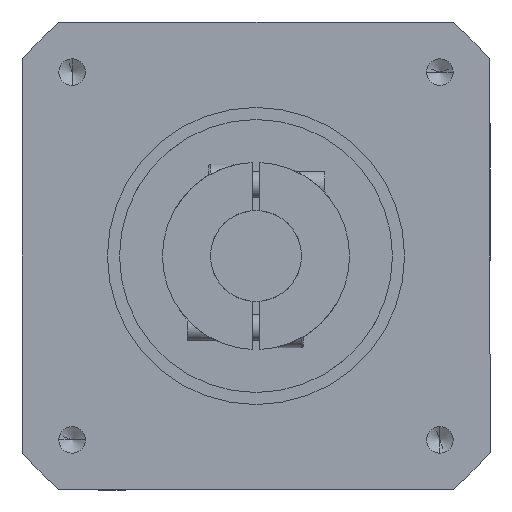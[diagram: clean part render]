
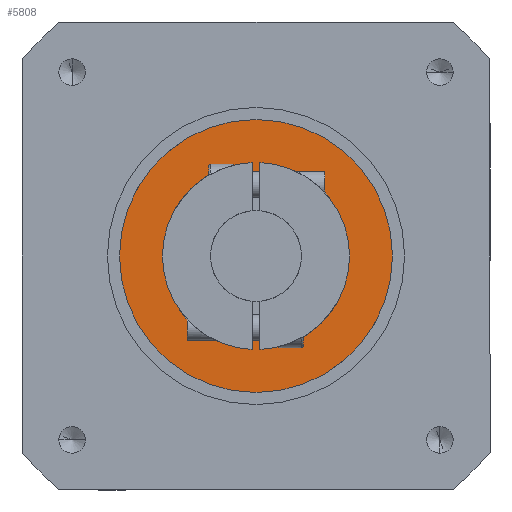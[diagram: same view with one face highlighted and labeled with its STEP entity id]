
A CAD part, front view. The second image highlights one B-rep face of the part: STEP entity #5808.
In plain terms, the highlighted planar face has unit normal (0, -1, 0).
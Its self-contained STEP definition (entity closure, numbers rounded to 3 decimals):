
#462 = DIRECTION ( 'NONE',  ( 0., 1., 0. ) ) ;
#545 = FACE_OUTER_BOUND ( 'NONE', #8815, .T. ) ;
#552 = AXIS2_PLACEMENT_3D ( 'NONE', #7822, #3677, #8491 ) ;
#615 = AXIS2_PLACEMENT_3D ( 'NONE', #1410, #6424, #2156 ) ;
#769 = CARTESIAN_POINT ( 'NONE',  ( 0., -175.5, -52.5 ) ) ;
#1007 = ORIENTED_EDGE ( 'NONE', *, *, #3928, .T. ) ;
#1032 = CIRCLE ( 'NONE', #5028, 52.5 ) ;
#1233 = CARTESIAN_POINT ( 'NONE',  ( 0., -175.5, 0. ) ) ;
#1410 = CARTESIAN_POINT ( 'NONE',  ( 0., -175.5, 0. ) ) ;
#1968 = DIRECTION ( 'NONE',  ( 0., 0., 1. ) ) ;
#2047 = DIRECTION ( 'NONE',  ( 0., 1., 0. ) ) ;
#2156 = DIRECTION ( 'NONE',  ( 0., 0., 1. ) ) ;
#2157 = EDGE_LOOP ( 'NONE', ( #1007, #8707 ) ) ;
#2472 = FACE_BOUND ( 'NONE', #2157, .T. ) ;
#3535 = AXIS2_PLACEMENT_3D ( 'NONE', #4765, #462, #5495 ) ;
#3547 = CIRCLE ( 'NONE', #615, 24.5 ) ;
#3677 = DIRECTION ( 'NONE',  ( 0., 1., 0. ) ) ;
#3736 = VERTEX_POINT ( 'NONE', #6221 ) ;
#3756 = EDGE_CURVE ( 'NONE', #5406, #3736, #1032, .T. ) ;
#3912 = CARTESIAN_POINT ( 'NONE',  ( 0., -175.5, 24.5 ) ) ;
#3928 = EDGE_CURVE ( 'NONE', #8055, #4618, #7251, .T. ) ;
#4053 = PLANE ( 'NONE',  #3535 ) ;
#4618 = VERTEX_POINT ( 'NONE', #5052 ) ;
#4765 = CARTESIAN_POINT ( 'NONE',  ( -24.5, -175.5, 0. ) ) ;
#4932 = AXIS2_PLACEMENT_3D ( 'NONE', #6328, #2047, #6999 ) ;
#5028 = AXIS2_PLACEMENT_3D ( 'NONE', #1233, #6247, #1968 ) ;
#5052 = CARTESIAN_POINT ( 'NONE',  ( 0., -175.5, -24.5 ) ) ;
#5406 = VERTEX_POINT ( 'NONE', #769 ) ;
#5495 = DIRECTION ( 'NONE',  ( 0., 0., 1. ) ) ;
#5808 = ADVANCED_FACE ( 'NONE', ( #545, #2472 ), #4053, .F. ) ;
#6221 = CARTESIAN_POINT ( 'NONE',  ( 0., -175.5, 52.5 ) ) ;
#6247 = DIRECTION ( 'NONE',  ( 0., 1., 0. ) ) ;
#6288 = ORIENTED_EDGE ( 'NONE', *, *, #3756, .F. ) ;
#6328 = CARTESIAN_POINT ( 'NONE',  ( 0., -175.5, 0. ) ) ;
#6424 = DIRECTION ( 'NONE',  ( 0., 1., 0. ) ) ;
#6999 = DIRECTION ( 'NONE',  ( 0., 0., 1. ) ) ;
#7051 = CIRCLE ( 'NONE', #552, 52.5 ) ;
#7251 = CIRCLE ( 'NONE', #4932, 24.5 ) ;
#7638 = ORIENTED_EDGE ( 'NONE', *, *, #7958, .F. ) ;
#7822 = CARTESIAN_POINT ( 'NONE',  ( 0., -175.5, 0. ) ) ;
#7922 = EDGE_CURVE ( 'NONE', #4618, #8055, #3547, .T. ) ;
#7958 = EDGE_CURVE ( 'NONE', #3736, #5406, #7051, .T. ) ;
#8055 = VERTEX_POINT ( 'NONE', #3912 ) ;
#8491 = DIRECTION ( 'NONE',  ( 0., 0., 1. ) ) ;
#8707 = ORIENTED_EDGE ( 'NONE', *, *, #7922, .T. ) ;
#8815 = EDGE_LOOP ( 'NONE', ( #7638, #6288 ) ) ;
